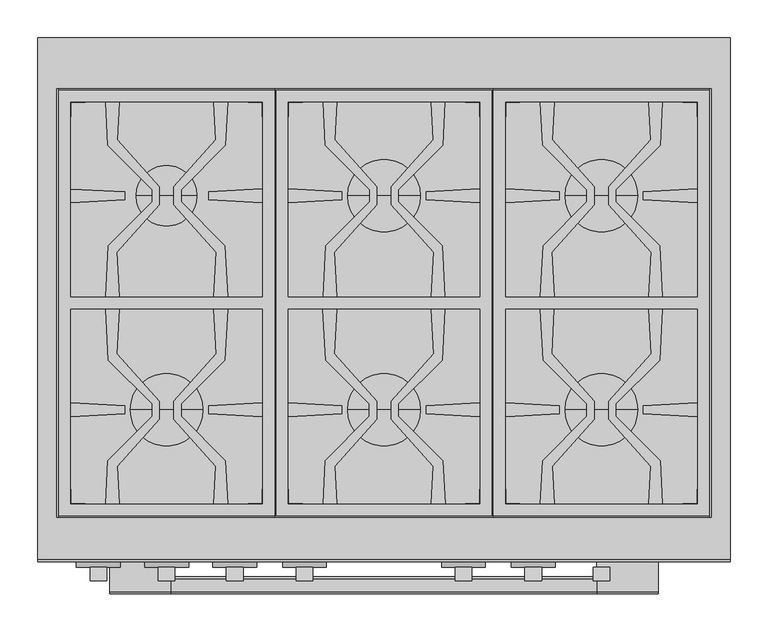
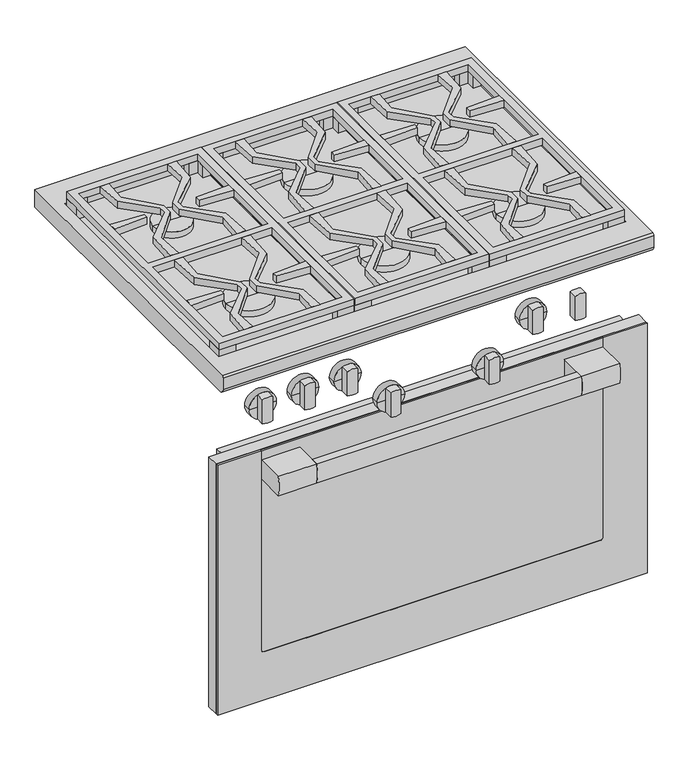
"""IFC4 building model written with IfcOpenShell, lengths in millimetres: proxy geometry, 11816580_BR_HR1134-3LP_EDST-CLS : 25113482_BR_11816580_HR1134-3LP_EDST-CLS."""

from ifc_helpers import new_model, si_unit, point, frame, frame_2d, origin, place, context, project, spatial, polyline, circle_curve, trimmed, segment, composite_curve, outline, extrude, source, transform, mapped, element, save
from ifc_brep_helpers import plane_surface, cylinder_surface, revolved_surface, advanced_brep


def specialty_equipment_c9cf899d(model_context):
    return source(origin(), model_context, "Body", "SolidModel", [
        extrude(outline(composite_curve([segment(polyline([(-714.0, 624.0), (-731.0, 624.0)]), True, "CONTINUOUS"), segment(trimmed(circle_curve(frame_2d((-655.4583333, 645.5)), 78.5416667), [point((-731.0, 624.0))], [point((-731.0, 667.0))], False, "CARTESIAN"), True, "CONTINUOUS"), segment(polyline([(-731.0, 667.0), (-714.0, 667.0)]), True, "CONTINUOUS"), segment(trimmed(circle_curve(frame_2d((-789.5416667, 645.5)), 78.5416667), [point((-714.0, 667.0))], [point((-714.0, 624.0))], False, "CARTESIAN"), True, "CONTINUOUS")], self_intersect=False)), frame((-281.0, 0.0, 0.0), z_axis=(1.0, 0.0, 0.0), x_axis=(0.0, 1.0, 0.0)), (0.0, 0.0, 1.0), 562.0),
        extrude(outline(composite_curve([segment(polyline([(-731.0, 667.0), (-668.7, 667.0), (-668.7, 624.0), (-731.0, 624.0)]), True, "CONTINUOUS"), segment(trimmed(circle_curve(frame_2d((-655.4583333, 645.5)), 78.5416667), [point((-731.0, 624.0))], [point((-731.0, 667.0))], False, "CARTESIAN"), True, "CONTINUOUS")], self_intersect=False)), frame((281.0, 0.0, 0.0), z_axis=(1.0, 0.0, 0.0), x_axis=(0.0, 1.0, 0.0)), (0.0, 0.0, 1.0), 81.0),
        extrude(outline(composite_curve([segment(polyline([(-668.7, 667.0), (-668.7, 624.0), (-731.0, 624.0)]), True, "CONTINUOUS"), segment(trimmed(circle_curve(frame_2d((-655.4583333, 645.5)), 78.5416667), [point((-731.0, 624.0))], [point((-731.0, 667.0))], False, "CARTESIAN"), True, "CONTINUOUS"), segment(polyline([(-731.0, 667.0), (-668.7, 667.0)]), True, "CONTINUOUS")], self_intersect=False)), frame((-362.0, 0.0, 0.0), z_axis=(1.0, 0.0, 0.0), x_axis=(0.0, 1.0, 0.0)), (0.0, 0.0, 1.0), 81.0),
        extrude(outline(polyline([(-456.0, -638.0), (456.0, -638.0), (456.0, -664.7), (-456.0, -664.7), (-456.0, -638.0)])), frame((0.0, 0.0, 127.0), z_axis=(0.0, 0.0, 1.0), x_axis=(1.0, 0.0, 0.0)), (0.0, 0.0, 1.0), 561.0),
        extrude(outline(polyline([(-455.0, -664.7), (455.0, -664.7), (455.0, -668.7), (-455.0, -668.7), (-455.0, -664.7)])), frame((0.0, 0.0, 128.0), z_axis=(0.0, 0.0, 1.0), x_axis=(1.0, 0.0, 0.0)), (0.0, 0.0, 1.0), 559.0),
        advanced_brep(
        [(363.0, -664.7, 688.0), (456.0, -664.7, 688.0), (456.0, -664.7, 127.0), (-456.0, -664.7, 127.0), (-456.0, -664.7, 688.0), (-363.0, -664.7, 688.0), (-363.0, -664.7, 687.0), (-455.0, -664.7, 687.0), (-455.0, -664.7, 128.0), (455.0, -664.7, 128.0), (455.0, -664.7, 687.0), (363.0, -664.7, 687.0), (-363.0, -670.0, 688.0), (-456.0, -670.0, 688.0), (-456.0, -670.0, 127.0), (456.0, -670.0, 127.0), (456.0, -670.0, 688.0), (363.0, -670.0, 688.0), (363.0, -670.0, 241.0), (357.0, -670.0, 235.0), (-357.0, -670.0, 235.0), (-363.0, -670.0, 241.0), (-363.0, -668.7, 241.0), (-363.0, -668.7, 687.0), (357.0, -668.7, 235.0), (-357.0, -668.7, 235.0), (363.0, -668.7, 687.0), (363.0, -668.7, 241.0), (455.0, -668.7, 687.0), (455.0, -668.7, 128.0), (-455.0, -668.7, 128.0), (-455.0, -668.7, 687.0)],
        [
            (0, 1),
            (1, 2),
            (2, 3),
            (3, 4),
            (4, 5),
            (5, 6),
            (6, 7),
            (7, 8),
            (8, 9),
            (9, 10),
            (10, 11),
            (11, 0),
            (12, 13),
            (13, 14),
            (14, 15),
            (15, 16),
            (16, 17),
            (17, 18),
            (18, 19, circle_curve(frame((357.0, -670.0, 241.0), z_axis=(0.0, 1.0, 0.0), x_axis=(-1.0, 0.0, 0.0)), 6.0)),
            (19, 20),
            (20, 21, circle_curve(frame((-357.0, -670.0, 241.0), z_axis=(0.0, 1.0, 0.0), x_axis=(-1.0, 0.0, 0.0)), 6.0)),
            (21, 12),
            (21, 22),
            (22, 23),
            (23, 6),
            (5, 12),
            (19, 24),
            (24, 25),
            (25, 20),
            (17, 0),
            (11, 26),
            (26, 27),
            (27, 18),
            (16, 1),
            (15, 2),
            (14, 3),
            (13, 4),
            (25, 22, circle_curve(frame((-357.0, -668.7, 241.0), z_axis=(0.0, 1.0, 0.0), x_axis=(-1.0, 0.0, 0.0)), 6.0)),
            (27, 24, circle_curve(frame((357.0, -668.7, 241.0), z_axis=(0.0, 1.0, 0.0), x_axis=(-1.0, 0.0, 0.0)), 6.0)),
            (28, 29),
            (29, 30),
            (30, 31),
            (31, 23),
            (26, 28),
            (28, 10),
            (9, 29),
            (8, 30),
            (7, 31),
        ],
        [
            plane_surface(frame((-363.0, -664.7, 241.0), z_axis=(0.0, 1.0, 0.0), x_axis=(0.0, 0.0, -1.0))),
            plane_surface(frame((-363.0, -670.0, 241.0), z_axis=(0.0, -1.0, 0.0), x_axis=(0.0, 0.0, 1.0))),
            plane_surface(frame((-363.0, -664.7, 688.0), z_axis=(1.0, 0.0, 0.0), x_axis=(0.0, -1.0, 0.0))),
            plane_surface(frame((-357.0, -664.7, 235.0), z_axis=(0.0, 0.0, 1.0), x_axis=(0.0, -1.0, 0.0))),
            plane_surface(frame((363.0, -664.7, 241.0), z_axis=(-1.0, 0.0, 0.0), x_axis=(0.0, -1.0, 0.0))),
            plane_surface(frame((363.0, -664.7, 688.0), z_axis=(0.0, 0.0, 1.0), x_axis=(0.0, -1.0, 0.0))),
            plane_surface(frame((456.0, -664.7, 688.0), z_axis=(1.0, 0.0, 0.0), x_axis=(0.0, -1.0, 0.0))),
            plane_surface(frame((456.0, -664.7, 127.0), z_axis=(0.0, 0.0, -1.0), x_axis=(0.0, -1.0, 0.0))),
            plane_surface(frame((-456.0, -664.7, 127.0), z_axis=(-1.0, 0.0, 0.0), x_axis=(0.0, -1.0, 0.0))),
            plane_surface(frame((-456.0, -664.7, 688.0), z_axis=(0.0, 0.0, 1.0), x_axis=(0.0, -1.0, 0.0))),
            revolved_surface(polyline([(-363.0, -670.0, 241.0), (-363.0, -668.7, 241.0)]), (-357.0, -670.0, 241.0), (0.0, -1.0, 0.0)),
            revolved_surface(polyline([(351.0, -670.0, 241.0), (351.0, -668.7, 241.0)]), (357.0, -670.0, 241.0), (0.0, -1.0, 0.0)),
            plane_surface(frame((455.0, -668.7, 687.0), z_axis=(0.0, 1.0, 0.0), x_axis=(0.0, 0.0, 1.0))),
            plane_surface(frame((455.0, -664.7, 687.0), z_axis=(-1.0, 0.0, 0.0), x_axis=(0.0, -1.0, 0.0))),
            plane_surface(frame((455.0, -664.7, 128.0), z_axis=(0.0, 0.0, 1.0), x_axis=(0.0, -1.0, 0.0))),
            plane_surface(frame((-455.0, -664.7, 128.0), z_axis=(1.0, 0.0, 0.0), x_axis=(0.0, -1.0, 0.0))),
            plane_surface(frame((-455.0, -664.7, 687.0), z_axis=(0.0, 0.0, -1.0), x_axis=(0.0, -1.0, 0.0))),
        ],
        [
            (0, [[1, 2, 3, 4, 5, 6, 7, 8, 9, 10, 11, 12]]),
            (1, [[13, 14, 15, 16, 17, 18, 19, 20, 21, 22]]),
            (2, [[-22, 23, 24, 25, -6, 26]]),
            (3, [[-20, 27, 28, 29]]),
            (4, [[-18, 30, -12, 31, 32, 33]]),
            (5, [[-1, -30, -17, 34]]),
            (6, [[-2, -34, -16, 35]]),
            (7, [[-3, -35, -15, 36]]),
            (8, [[-4, -36, -14, 37]]),
            (9, [[-5, -37, -13, -26]]),
            (10, [[-21, -29, 38, -23]]),
            (11, [[-19, -33, 39, -27]]),
            (12, [[40, 41, 42, 43, -24, -38, -28, -39, -32, 44]]),
            (13, [[-40, 45, -10, 46]]),
            (14, [[-41, -46, -9, 47]]),
            (15, [[-42, -47, -8, 48]]),
            (16, [[-45, -44, -31, -11]]),
            (16, [[-48, -7, -25, -43]]),
        ],
    ),
        extrude(outline(polyline([(-427.0, -617.0), (427.0, -617.0), (427.0, -638.0), (-427.0, -638.0), (-427.0, -617.0)])), frame((0.0, 0.0, 133.0), z_axis=(0.0, 0.0, 1.0), x_axis=(1.0, 0.0, 0.0)), (0.0, 0.0, 1.0), 550.0),
        extrude(outline(polyline([(206.4177304, -358.0273828), (224.4174107, -358.0273828), (221.3474419, -416.9894265), (277.4590566, -479.568392), (277.4590566, -503.4471434), (221.8930533, -565.5024535), (224.5051055, -615.0212482), (206.5054252, -615.0212482), (209.4706458, -558.0710081), (267.8494553, -499.6921986), (267.8494553, -483.3657133), (209.9764383, -425.4926963), (206.4177304, -358.0273828)])), frame((0.0, 0.0, 914.0), z_axis=(0.0, 0.0, 1.0), x_axis=(1.0, 0.0, 0.0)), (0.0, 0.0, 1.0), 15.0),
        extrude(outline(polyline([(352.5666917, -416.9448139), (349.4588735, -358.0273828), (367.4534566, -358.0273828), (363.9434746, -425.4403498), (306.0712231, -483.3126013), (306.0712231, -499.6295194), (364.5438392, -558.1021355), (367.5462487, -615.0212482), (349.541471, -615.0212482), (352.1220648, -565.4581775), (296.4590702, -503.3795395), (296.4590702, -479.6049953), (352.5666917, -416.9448139)])), frame((0.0, 0.0, 914.0), z_axis=(0.0, 0.0, 1.0), x_axis=(1.0, 0.0, 0.0)), (0.0, 0.0, 1.0), 15.0),
        extrude(outline(polyline([(-80.5822696, -358.0273828), (-62.5825893, -358.0273828), (-65.6525581, -416.9894265), (-9.5409434, -479.568392), (-9.5409434, -503.4471434), (-65.1069467, -565.5024535), (-62.4948945, -615.0212482), (-80.4945748, -615.0212482), (-77.5293542, -558.0710081), (-19.1505447, -499.6921986), (-19.1505447, -483.3657133), (-77.0235617, -425.4926963), (-80.5822696, -358.0273828)])), frame((0.0, 0.0, 914.0), z_axis=(0.0, 0.0, 1.0), x_axis=(1.0, 0.0, 0.0)), (0.0, 0.0, 1.0), 15.0),
        extrude(outline(polyline([(65.5666917, -416.9448139), (62.4588735, -358.0273828), (80.4534566, -358.0273828), (76.9434746, -425.4403498), (19.0712231, -483.3126013), (19.0712231, -499.6295194), (77.5438392, -558.1021355), (80.5462487, -615.0212482), (62.541471, -615.0212482), (65.1220648, -565.4581775), (9.4590702, -503.3795395), (9.4590702, -479.6049953), (65.5666917, -416.9448139)])), frame((0.0, 0.0, 914.0), z_axis=(0.0, 0.0, 1.0), x_axis=(1.0, 0.0, 0.0)), (0.0, 0.0, 1.0), 15.0),
        extrude(outline(polyline([(-367.5822696, -358.0273828), (-349.5825893, -358.0273828), (-352.6525581, -416.9894265), (-296.5409434, -479.568392), (-296.5409434, -503.4471434), (-352.1069467, -565.5024535), (-349.4948945, -615.0212482), (-367.4945748, -615.0212482), (-364.5293542, -558.0710081), (-306.1505447, -499.6921986), (-306.1505447, -483.3657133), (-364.0235617, -425.4926963), (-367.5822696, -358.0273828)])), frame((0.0, 0.0, 914.0), z_axis=(0.0, 0.0, 1.0), x_axis=(1.0, 0.0, 0.0)), (0.0, 0.0, 1.0), 15.0),
        extrude(outline(polyline([(-224.5411265, -358.0273828), (-206.5465434, -358.0273828), (-210.0565254, -425.4403498), (-267.9287769, -483.3126013), (-267.9287769, -499.6295194), (-209.4561608, -558.1021355), (-206.4537513, -615.0212482), (-224.458529, -615.0212482), (-221.8779352, -565.4581775), (-277.5409298, -503.3795395), (-277.5409298, -479.6049953), (-221.4333083, -416.9448139), (-224.5411265, -358.0273828)])), frame((0.0, 0.0, 914.0), z_axis=(0.0, 0.0, 1.0), x_axis=(1.0, 0.0, 0.0)), (0.0, 0.0, 1.0), 15.0),
        extrude(outline(polyline([(206.4614138, -85.0), (224.4614138, -85.0), (221.8661974, -134.5196799), (277.5, -196.6082182), (277.5, -220.3917818), (221.3710782, -283.0328838), (224.4614138, -342.0), (206.4614138, -342.0), (209.9971843, -274.5334805), (267.8891082, -216.6415566), (267.8891082, -200.3584434), (209.4441217, -141.9134569), (206.4614138, -85.0)])), frame((0.0, 0.0, 914.0), z_axis=(0.0, 0.0, 1.0), x_axis=(1.0, 0.0, 0.0)), (0.0, 0.0, 1.0), 15.0),
        extrude(outline(polyline([(349.5, -85.0), (367.5, -85.0), (364.5172921, -141.9134569), (306.1108918, -200.3198573), (306.1108918, -216.6801428), (363.9642295, -274.5334805), (367.5, -342.0), (349.5, -342.0), (352.5903356, -283.0328839), (296.5, -220.4348449), (296.5, -196.5651551), (352.0952165, -134.5196799), (349.5, -85.0)])), frame((0.0, 0.0, 914.0), z_axis=(0.0, 0.0, 1.0), x_axis=(1.0, 0.0, 0.0)), (0.0, 0.0, 1.0), 15.0),
        extrude(outline(polyline([(-367.5385862, -85.0), (-349.5385862, -85.0), (-352.1338026, -134.5196799), (-296.5, -196.6082182), (-296.5, -220.3917818), (-352.6289218, -283.0328838), (-349.5385862, -342.0), (-367.5385862, -342.0), (-364.0028157, -274.5334805), (-306.1108918, -216.6415566), (-306.1108918, -200.3584434), (-364.5558783, -141.9134569), (-367.5385862, -85.0)])), frame((0.0, 0.0, 914.0), z_axis=(0.0, 0.0, 1.0), x_axis=(1.0, 0.0, 0.0)), (0.0, 0.0, 1.0), 15.0),
        extrude(outline(polyline([(-224.5, -85.0), (-206.5, -85.0), (-209.4827079, -141.9134569), (-267.8891082, -200.3198573), (-267.8891082, -216.6801428), (-210.0357705, -274.5334805), (-206.5, -342.0), (-224.5, -342.0), (-221.4096644, -283.0328839), (-277.5, -220.4348449), (-277.5, -196.5651551), (-221.9047835, -134.5196799), (-224.5, -85.0)])), frame((0.0, 0.0, 914.0), z_axis=(0.0, 0.0, 1.0), x_axis=(1.0, 0.0, 0.0)), (0.0, 0.0, 1.0), 15.0),
        extrude(outline(polyline([(-62.5385862, -85.0), (-65.1338026, -134.5196799), (-9.5, -196.6082182), (-9.5, -220.3917818), (-65.6289218, -283.0328838), (-62.5385862, -342.0), (-80.5385862, -342.0), (-77.0028157, -274.5334805), (-19.1108918, -216.6415566), (-19.1108918, -200.3584434), (-77.5558783, -141.9134569), (-80.5385862, -85.0), (-62.5385862, -85.0)])), frame((0.0, 0.0, 914.0), z_axis=(0.0, 0.0, 1.0), x_axis=(1.0, 0.0, 0.0)), (0.0, 0.0, 1.0), 15.0),
        extrude(outline(polyline([(65.0952165, -134.5196799), (62.5, -85.0), (80.5, -85.0), (77.5172921, -141.9134569), (19.1108918, -200.3198573), (19.1108918, -216.6801428), (76.9642295, -274.5334805), (80.5, -342.0), (62.5, -342.0), (65.5903356, -283.0328839), (9.5, -220.4348449), (9.5, -196.5651551), (65.0952165, -134.5196799)])), frame((0.0, 0.0, 914.0), z_axis=(0.0, 0.0, 1.0), x_axis=(1.0, 0.0, 0.0)), (0.0, 0.0, 1.0), 15.0),
        extrude(outline(polyline([(429.5, -67.0), (429.5, -633.0), (144.5, -633.0), (144.5, -67.0), (429.5, -67.0)])), frame((0.0, 0.0, 870.0), z_axis=(0.0, 0.0, 1.0), x_axis=(1.0, 0.0, 0.0)), (0.0, 0.0, 1.0), 17.0),
        extrude(outline(polyline([(142.5, -69.0), (142.5, -631.0), (-142.5, -631.0), (-142.5, -69.0), (142.5, -69.0)])), frame((0.0, 0.0, 870.0), z_axis=(0.0, 0.0, 1.0), x_axis=(1.0, 0.0, 0.0)), (0.0, 0.0, 1.0), 17.0),
        extrude(outline(polyline([(-144.5, -67.0), (-144.5, -633.0), (-429.5, -633.0), (-429.5, -67.0), (-144.5, -67.0)])), frame((0.0, 0.0, 870.0), z_axis=(0.0, 0.0, 1.0), x_axis=(1.0, 0.0, 0.0)), (0.0, 0.0, 1.0), 17.0),
        extrude(outline(polyline([(-342.5, -213.7921261), (-413.5, -217.4578849), (-413.5, -199.5421151), (-342.5, -203.2078739), (-342.5, -213.7921261)])), frame((0.0, 0.0, 914.0), z_axis=(0.0, 0.0, 1.0), x_axis=(1.0, 0.0, 0.0)), (0.0, 0.0, 1.0), 15.0),
        extrude(outline(polyline([(-160.5, -199.5029948), (-160.5, -217.4970052), (-231.5, -213.7790477), (-231.5, -203.2209523), (-160.5, -199.5029948)])), frame((0.0, 0.0, 914.0), z_axis=(0.0, 0.0, 1.0), x_axis=(1.0, 0.0, 0.0)), (0.0, 0.0, 1.0), 15.0),
        extrude(outline(polyline([(-342.5, -496.2921261), (-413.5, -499.9578849), (-413.5, -482.0421151), (-342.5, -485.7078739), (-342.5, -496.2921261)])), frame((0.0, 0.0, 914.0), z_axis=(0.0, 0.0, 1.0), x_axis=(1.0, 0.0, 0.0)), (0.0, 0.0, 1.0), 15.0),
        extrude(outline(polyline([(-160.5, -482.0029948), (-160.5, -499.9970052), (-231.5, -496.2790477), (-231.5, -485.7209523), (-160.5, -482.0029948)])), frame((0.0, 0.0, 914.0), z_axis=(0.0, 0.0, 1.0), x_axis=(1.0, 0.0, 0.0)), (0.0, 0.0, 1.0), 15.0),
        extrude(outline(polyline([(-144.5, -631.0), (-179.5, -631.0), (-179.5, -615.0), (-160.5, -615.0), (-160.5, -596.0), (-144.5, -596.0), (-144.5, -631.0)])), frame((0.0, 0.0, 887.0), z_axis=(0.0, 0.0, 1.0), x_axis=(1.0, 0.0, 0.0)), (0.0, 0.0, 1.0), 27.0),
        extrude(outline(polyline([(-429.5, -631.0), (-429.5, -596.0), (-413.5, -596.0), (-413.5, -615.0), (-394.5, -615.0), (-394.5, -631.0), (-429.5, -631.0)])), frame((0.0, 0.0, 887.0), z_axis=(0.0, 0.0, 1.0), x_axis=(1.0, 0.0, 0.0)), (0.0, 0.0, 1.0), 27.0),
        extrude(outline(polyline([(-144.5, -69.0), (-144.5, -104.0), (-160.5, -104.0), (-160.5, -85.0), (-179.5, -85.0), (-179.5, -69.0), (-144.5, -69.0)])), frame((0.0, 0.0, 887.0), z_axis=(0.0, 0.0, 1.0), x_axis=(1.0, 0.0, 0.0)), (0.0, 0.0, 1.0), 27.0),
        extrude(outline(polyline([(-429.5, -69.0), (-394.5, -69.0), (-394.5, -85.0), (-413.5, -85.0), (-413.5, -104.0), (-429.5, -104.0), (-429.5, -69.0)])), frame((0.0, 0.0, 887.0), z_axis=(0.0, 0.0, 1.0), x_axis=(1.0, 0.0, 0.0)), (0.0, 0.0, 1.0), 27.0),
        extrude(outline(polyline([(-126.4662166, -499.9810574), (-126.4662166, -482.0189426), (-55.4662166, -485.7078739), (-55.4662166, -496.2921261), (-126.4662166, -499.9810574)])), frame((0.0, 0.0, 914.0), z_axis=(0.0, 0.0, 1.0), x_axis=(1.0, 0.0, 0.0)), (0.0, 0.0, 1.0), 15.0),
        extrude(outline(polyline([(126.5337834, -482.0262039), (126.5337834, -499.9737961), (55.5337834, -496.2790477), (55.5337834, -485.7209523), (126.5337834, -482.0262039)])), frame((0.0, 0.0, 914.0), z_axis=(0.0, 0.0, 1.0), x_axis=(1.0, 0.0, 0.0)), (0.0, 0.0, 1.0), 15.0),
        extrude(outline(polyline([(160.5, -499.9810574), (160.5, -482.0189426), (231.5, -485.7078739), (231.5, -496.2921261), (160.5, -499.9810574)])), frame((0.0, 0.0, 914.0), z_axis=(0.0, 0.0, 1.0), x_axis=(1.0, 0.0, 0.0)), (0.0, 0.0, 1.0), 15.0),
        extrude(outline(polyline([(413.5, -482.0262039), (413.5, -499.9737961), (342.5, -496.2790477), (342.5, -485.7209523), (413.5, -482.0262039)])), frame((0.0, 0.0, 914.0), z_axis=(0.0, 0.0, 1.0), x_axis=(1.0, 0.0, 0.0)), (0.0, 0.0, 1.0), 15.0),
        extrude(outline(polyline([(160.5, -217.4810574), (160.5, -199.5189426), (231.5, -203.2078739), (231.5, -213.7921261), (160.5, -217.4810574)])), frame((0.0, 0.0, 914.0), z_axis=(0.0, 0.0, 1.0), x_axis=(1.0, 0.0, 0.0)), (0.0, 0.0, 1.0), 15.0),
        extrude(outline(polyline([(413.5, -199.5262039), (413.5, -217.4737961), (342.5, -213.7790477), (342.5, -203.2209523), (413.5, -199.5262039)])), frame((0.0, 0.0, 914.0), z_axis=(0.0, 0.0, 1.0), x_axis=(1.0, 0.0, 0.0)), (0.0, 0.0, 1.0), 15.0),
        extrude(outline(polyline([(-126.4662166, -217.4810574), (-126.4662166, -199.5189426), (-55.4662166, -203.2078739), (-55.4662166, -213.7921261), (-126.4662166, -217.4810574)])), frame((0.0, 0.0, 914.0), z_axis=(0.0, 0.0, 1.0), x_axis=(1.0, 0.0, 0.0)), (0.0, 0.0, 1.0), 15.0),
        extrude(outline(polyline([(126.5337834, -199.5262039), (126.5337834, -217.4737961), (55.5337834, -213.7790477), (55.5337834, -203.2209523), (126.5337834, -199.5262039)])), frame((0.0, 0.0, 914.0), z_axis=(0.0, 0.0, 1.0), x_axis=(1.0, 0.0, 0.0)), (0.0, 0.0, 1.0), 15.0),
        advanced_brep(
        [(239.0, -208.5, 887.0), (335.0, -208.5, 887.0), (335.0, -208.5, 901.0), (239.0, -208.5, 901.0), (287.0, -208.5, 887.0), (287.0, -208.5, 901.0)],
        [
            (0, 1, circle_curve(frame((287.0, -208.5, 887.0), z_axis=(0.0, 0.0, 1.0), x_axis=(1.0, 0.0, 0.0)), 48.0)),
            (1, 2),
            (2, 3, circle_curve(frame((287.0, -208.5, 901.0), z_axis=(0.0, 0.0, -1.0), x_axis=(1.0, 0.0, 0.0)), 48.0)),
            (3, 0),
            (1, 0, circle_curve(frame((287.0, -208.5, 887.0), z_axis=(0.0, 0.0, 1.0), x_axis=(1.0, 0.0, 0.0)), 48.0)),
            (3, 2, circle_curve(frame((287.0, -208.5, 901.0), z_axis=(0.0, 0.0, -1.0), x_axis=(1.0, 0.0, 0.0)), 48.0)),
            (4, 1),
            (0, 4),
            (2, 5),
            (5, 3),
        ],
        [
            cylinder_surface(frame((287.0, -208.5, 2424.4), z_axis=(0.0, 0.0, -1.0), x_axis=(1.0, 0.0, 0.0)), 48.0),
            plane_surface(frame((287.0, -208.5, 887.0), z_axis=(0.0, 0.0, -1.0), x_axis=(1.0, 0.0, 0.0))),
            plane_surface(frame((287.0, -208.5, 901.0), z_axis=(0.0, 0.0, 1.0), x_axis=(1.0, 0.0, 0.0))),
        ],
        [
            (0, [[1, 2, 3, 4]]),
            (0, [[5, -4, 6, -2]]),
            (1, [[7, -1, 8]]),
            (1, [[-8, -5, -7]]),
            (2, [[-3, 9, 10]]),
            (2, [[-6, -10, -9]]),
        ],
    ),
        extrude(outline(polyline([(-144.5, -69.0), (-144.5, -631.0), (-429.5, -631.0), (-429.5, -69.0), (-144.5, -69.0)]), holes=[polyline([(-160.5, -85.0), (-413.5, -85.0), (-413.5, -342.0), (-160.5, -342.0), (-160.5, -85.0)]), polyline([(-413.5, -358.0), (-413.5, -615.0), (-160.5, -615.0), (-160.5, -358.0), (-413.5, -358.0)])]), frame((0.0, 0.0, 914.0), z_axis=(0.0, 0.0, 1.0), x_axis=(1.0, 0.0, 0.0)), (0.0, 0.0, 1.0), 15.0),
        extrude(outline(polyline([(142.5, -69.0), (142.5, -631.0), (-142.5, -631.0), (-142.5, -69.0), (142.5, -69.0)]), holes=[polyline([(126.5337834, -85.0), (-126.4662166, -85.0), (-126.4662166, -342.0), (126.5337834, -342.0), (126.5337834, -85.0)]), polyline([(-126.4662166, -358.0), (-126.4662166, -615.0), (126.5337834, -615.0), (126.5337834, -358.0), (-126.4662166, -358.0)])]), frame((0.0, 0.0, 914.0), z_axis=(0.0, 0.0, 1.0), x_axis=(1.0, 0.0, 0.0)), (0.0, 0.0, 1.0), 15.0),
        extrude(outline(polyline([(429.5, -69.0), (429.5, -631.0), (144.5, -631.0), (144.5, -69.0), (429.5, -69.0)]), holes=[polyline([(413.5, -85.0), (160.5, -85.0), (160.5, -342.0), (413.5, -342.0), (413.5, -85.0)]), polyline([(160.5, -358.0), (160.5, -615.0), (413.5, -615.0), (413.5, -358.0), (160.5, -358.0)])]), frame((0.0, 0.0, 914.0), z_axis=(0.0, 0.0, 1.0), x_axis=(1.0, 0.0, 0.0)), (0.0, 0.0, 1.0), 15.0),
        advanced_brep(
        [(239.0, -491.0, 887.0), (335.0, -491.0, 887.0), (335.0, -491.0, 901.0), (239.0, -491.0, 901.0), (287.0, -491.0, 887.0), (287.0, -491.0, 901.0)],
        [
            (0, 1, circle_curve(frame((287.0, -491.0, 887.0), z_axis=(0.0, 0.0, 1.0), x_axis=(1.0, 0.0, 0.0)), 48.0)),
            (1, 2),
            (2, 3, circle_curve(frame((287.0, -491.0, 901.0), z_axis=(0.0, 0.0, -1.0), x_axis=(1.0, 0.0, 0.0)), 48.0)),
            (3, 0),
            (1, 0, circle_curve(frame((287.0, -491.0, 887.0), z_axis=(0.0, 0.0, 1.0), x_axis=(1.0, 0.0, 0.0)), 48.0)),
            (3, 2, circle_curve(frame((287.0, -491.0, 901.0), z_axis=(0.0, 0.0, -1.0), x_axis=(1.0, 0.0, 0.0)), 48.0)),
            (4, 1),
            (0, 4),
            (2, 5),
            (5, 3),
        ],
        [
            cylinder_surface(frame((287.0, -491.0, 2424.4), z_axis=(0.0, 0.0, -1.0), x_axis=(1.0, 0.0, 0.0)), 48.0),
            plane_surface(frame((287.0, -491.0, 887.0), z_axis=(0.0, 0.0, -1.0), x_axis=(1.0, 0.0, 0.0))),
            plane_surface(frame((287.0, -491.0, 901.0), z_axis=(0.0, 0.0, 1.0), x_axis=(1.0, 0.0, 0.0))),
        ],
        [
            (0, [[1, 2, 3, 4]]),
            (0, [[5, -4, 6, -2]]),
            (1, [[7, -1, 8]]),
            (1, [[-8, -5, -7]]),
            (2, [[-3, 9, 10]]),
            (2, [[-6, -10, -9]]),
        ],
    ),
        extrude(outline(polyline([(429.5, -631.0), (394.5, -631.0), (394.5, -615.0), (413.5, -615.0), (413.5, -596.0), (429.5, -596.0), (429.5, -631.0)])), frame((0.0, 0.0, 887.0), z_axis=(0.0, 0.0, 1.0), x_axis=(1.0, 0.0, 0.0)), (0.0, 0.0, 1.0), 27.0),
        extrude(outline(polyline([(144.5, -631.0), (144.5, -596.0), (160.5125078, -596.0), (160.5125078, -615.0), (179.5, -615.0), (179.5, -631.0), (144.5, -631.0)])), frame((0.0, 0.0, 887.0), z_axis=(0.0, 0.0, 1.0), x_axis=(1.0, 0.0, 0.0)), (0.0, 0.0, 1.0), 27.0),
        extrude(outline(polyline([(429.5, -69.0), (429.5, -104.0), (413.4874922, -104.0), (413.4874922, -85.0), (394.5, -85.0), (394.5, -69.0), (429.5, -69.0)])), frame((0.0, 0.0, 887.0), z_axis=(0.0, 0.0, 1.0), x_axis=(1.0, 0.0, 0.0)), (0.0, 0.0, 1.0), 27.0),
        extrude(outline(polyline([(144.5, -69.0), (179.5, -69.0), (179.5, -85.0), (160.5125078, -85.0), (160.5125078, -104.0), (144.5, -104.0), (144.5, -69.0)])), frame((0.0, 0.0, 887.0), z_axis=(0.0, 0.0, 1.0), x_axis=(1.0, 0.0, 0.0)), (0.0, 0.0, 1.0), 27.0),
        extrude(outline(polyline([(142.5, -631.0), (107.5, -631.0), (107.5, -615.0), (126.5337834, -615.0), (126.5337834, -596.0), (142.5, -596.0), (142.5, -631.0)])), frame((0.0, 0.0, 887.0), z_axis=(0.0, 0.0, 1.0), x_axis=(1.0, 0.0, 0.0)), (0.0, 0.0, 1.0), 27.0),
        extrude(outline(polyline([(-142.5, -631.0), (-142.5, -596.0), (-126.4662166, -596.0), (-126.4662166, -615.0), (-107.5, -615.0), (-107.5, -631.0), (-142.5, -631.0)])), frame((0.0, 0.0, 887.0), z_axis=(0.0, 0.0, 1.0), x_axis=(1.0, 0.0, 0.0)), (0.0, 0.0, 1.0), 27.0),
        extrude(outline(polyline([(142.5, -69.0), (142.5, -104.0), (126.5337834, -104.0), (126.5337834, -85.0), (107.5, -85.0), (107.5, -69.0), (142.5, -69.0)])), frame((0.0, 0.0, 887.0), z_axis=(0.0, 0.0, 1.0), x_axis=(1.0, 0.0, 0.0)), (0.0, 0.0, 1.0), 27.0),
        extrude(outline(polyline([(-142.5, -69.0), (-107.5, -69.0), (-107.5, -85.0), (-126.4662166, -85.0), (-126.4662166, -104.0), (-142.5, -104.0), (-142.5, -69.0)])), frame((0.0, 0.0, 887.0), z_axis=(0.0, 0.0, 1.0), x_axis=(1.0, 0.0, 0.0)), (0.0, 0.0, 1.0), 27.0),
        advanced_brep(
        [(-48.0, -208.5, 887.0), (48.0, -208.5, 887.0), (48.0, -208.5, 901.0), (-48.0, -208.5, 901.0), (0.0, -208.5, 887.0), (0.0, -208.5, 901.0)],
        [
            (0, 1, circle_curve(frame((0.0, -208.5, 887.0), z_axis=(0.0, 0.0, 1.0), x_axis=(1.0, 0.0, 0.0)), 48.0)),
            (1, 2),
            (2, 3, circle_curve(frame((0.0, -208.5, 901.0), z_axis=(0.0, 0.0, -1.0), x_axis=(1.0, 0.0, 0.0)), 48.0)),
            (3, 0),
            (1, 0, circle_curve(frame((0.0, -208.5, 887.0), z_axis=(0.0, 0.0, 1.0), x_axis=(1.0, 0.0, 0.0)), 48.0)),
            (3, 2, circle_curve(frame((0.0, -208.5, 901.0), z_axis=(0.0, 0.0, -1.0), x_axis=(1.0, 0.0, 0.0)), 48.0)),
            (4, 1),
            (0, 4),
            (2, 5),
            (5, 3),
        ],
        [
            cylinder_surface(frame((0.0, -208.5, 2338.4), z_axis=(0.0, 0.0, -1.0), x_axis=(1.0, 0.0, 0.0)), 48.0),
            plane_surface(frame((0.0, -208.5, 887.0), z_axis=(0.0, 0.0, -1.0), x_axis=(1.0, 0.0, 0.0))),
            plane_surface(frame((0.0, -208.5, 901.0), z_axis=(0.0, 0.0, 1.0), x_axis=(1.0, 0.0, 0.0))),
        ],
        [
            (0, [[1, 2, 3, 4]]),
            (0, [[5, -4, 6, -2]]),
            (1, [[7, -1, 8]]),
            (1, [[-8, -5, -7]]),
            (2, [[-3, 9, 10]]),
            (2, [[-6, -10, -9]]),
        ],
    ),
        advanced_brep(
        [(-287.0, -208.5, 887.0), (-247.0, -208.5, 887.0), (-327.0, -208.5, 887.0), (-327.0, -208.5, 901.0), (-247.0, -208.5, 901.0), (-287.0, -208.5, 901.0)],
        [
            (0, 1),
            (1, 2, circle_curve(frame((-287.0, -208.5, 887.0), z_axis=(0.0, 0.0, -1.0), x_axis=(1.0, 0.0, 0.0)), 40.0)),
            (2, 0),
            (2, 1, circle_curve(frame((-287.0, -208.5, 887.0), z_axis=(0.0, 0.0, -1.0), x_axis=(1.0, 0.0, 0.0)), 40.0)),
            (3, 4, circle_curve(frame((-287.0, -208.5, 901.0), z_axis=(0.0, 0.0, 1.0), x_axis=(1.0, 0.0, 0.0)), 40.0)),
            (4, 5),
            (5, 3),
            (4, 3, circle_curve(frame((-287.0, -208.5, 901.0), z_axis=(0.0, 0.0, 1.0), x_axis=(1.0, 0.0, 0.0)), 40.0)),
            (1, 4),
            (3, 2),
        ],
        [
            plane_surface(frame((-287.0, -208.5, 887.0), z_axis=(0.0, 0.0, -1.0), x_axis=(1.0, 0.0, 0.0))),
            plane_surface(frame((-287.0, -208.5, 901.0), z_axis=(0.0, 0.0, 1.0), x_axis=(1.0, 0.0, 0.0))),
            cylinder_surface(frame((-287.0, -208.5, 2424.4), z_axis=(0.0, 0.0, -1.0), x_axis=(1.0, 0.0, 0.0)), 40.0),
        ],
        [
            (0, [[1, 2, 3]]),
            (0, [[-3, 4, -1]]),
            (1, [[5, 6, 7]]),
            (1, [[8, -7, -6]]),
            (2, [[-2, 9, -5, 10]]),
            (2, [[-4, -10, -8, -9]]),
        ],
    ),
        advanced_brep(
        [(-335.0, -491.0, 887.0), (-239.0, -491.0, 887.0), (-239.0, -491.0, 901.0), (-335.0, -491.0, 901.0), (-287.0, -491.0, 887.0), (-287.0, -491.0, 901.0)],
        [
            (0, 1, circle_curve(frame((-287.0, -491.0, 887.0), z_axis=(0.0, 0.0, 1.0), x_axis=(1.0, 0.0, 0.0)), 48.0)),
            (1, 2),
            (2, 3, circle_curve(frame((-287.0, -491.0, 901.0), z_axis=(0.0, 0.0, -1.0), x_axis=(1.0, 0.0, 0.0)), 48.0)),
            (3, 0),
            (1, 0, circle_curve(frame((-287.0, -491.0, 887.0), z_axis=(0.0, 0.0, 1.0), x_axis=(1.0, 0.0, 0.0)), 48.0)),
            (3, 2, circle_curve(frame((-287.0, -491.0, 901.0), z_axis=(0.0, 0.0, -1.0), x_axis=(1.0, 0.0, 0.0)), 48.0)),
            (4, 1),
            (0, 4),
            (2, 5),
            (5, 3),
        ],
        [
            cylinder_surface(frame((-287.0, -491.0, 2424.4), z_axis=(0.0, 0.0, -1.0), x_axis=(1.0, 0.0, 0.0)), 48.0),
            plane_surface(frame((-287.0, -491.0, 887.0), z_axis=(0.0, 0.0, -1.0), x_axis=(1.0, 0.0, 0.0))),
            plane_surface(frame((-287.0, -491.0, 901.0), z_axis=(0.0, 0.0, 1.0), x_axis=(1.0, 0.0, 0.0))),
        ],
        [
            (0, [[1, 2, 3, 4]]),
            (0, [[5, -4, 6, -2]]),
            (1, [[7, -1, 8]]),
            (1, [[-8, -5, -7]]),
            (2, [[-3, 9, 10]]),
            (2, [[-6, -10, -9]]),
        ],
    ),
        advanced_brep(
        [(-48.0, -491.0, 887.0), (48.0, -491.0, 887.0), (48.0, -491.0, 901.0), (-48.0, -491.0, 901.0), (0.0, -491.0, 887.0), (0.0, -491.0, 901.0)],
        [
            (0, 1, circle_curve(frame((0.0, -491.0, 887.0), z_axis=(0.0, 0.0, 1.0), x_axis=(1.0, 0.0, 0.0)), 48.0)),
            (1, 2),
            (2, 3, circle_curve(frame((0.0, -491.0, 901.0), z_axis=(0.0, 0.0, -1.0), x_axis=(1.0, 0.0, 0.0)), 48.0)),
            (3, 0),
            (1, 0, circle_curve(frame((0.0, -491.0, 887.0), z_axis=(0.0, 0.0, 1.0), x_axis=(1.0, 0.0, 0.0)), 48.0)),
            (3, 2, circle_curve(frame((0.0, -491.0, 901.0), z_axis=(0.0, 0.0, -1.0), x_axis=(1.0, 0.0, 0.0)), 48.0)),
            (4, 1),
            (0, 4),
            (2, 5),
            (5, 3),
        ],
        [
            cylinder_surface(frame((0.0, -491.0, 2424.4), z_axis=(0.0, 0.0, -1.0), x_axis=(1.0, 0.0, 0.0)), 48.0),
            plane_surface(frame((0.0, -491.0, 887.0), z_axis=(0.0, 0.0, -1.0), x_axis=(1.0, 0.0, 0.0))),
            plane_surface(frame((0.0, -491.0, 901.0), z_axis=(0.0, 0.0, 1.0), x_axis=(1.0, 0.0, 0.0))),
        ],
        [
            (0, [[1, 2, 3, 4]]),
            (0, [[5, -4, 6, -2]]),
            (1, [[7, -1, 8]]),
            (1, [[-8, -5, -7]]),
            (2, [[-3, 9, 10]]),
            (2, [[-6, -10, -9]]),
        ],
    ),
        advanced_brep(
        [(457.0, 0.0, 902.0), (457.0, -688.3499547, 902.0), (457.0, -692.0, 898.3499547), (457.0, -692.0, 872.0), (457.0, -682.0, 862.0), (457.0, 0.0, 862.0), (-457.0, 0.0, 902.0), (-457.0, 0.0, 862.0), (-457.0, -682.0, 862.0), (-457.0, -692.0, 872.0), (-457.0, -692.0, 898.3499547), (-457.0, -688.3499547, 902.0), (-432.0, -67.0, 902.0), (432.0, -67.0, 902.0), (432.0, -633.0, 902.0), (-432.0, -633.0, 902.0), (432.0, -67.0, 870.0), (-432.0, -67.0, 870.0), (-432.0, -633.0, 870.0), (432.0, -633.0, 870.0)],
        [
            (0, 1),
            (1, 2, circle_curve(frame((457.0, -688.0, 898.0), z_axis=(1.0, 0.0, 0.0), x_axis=(0.0, 0.0, 1.0)), 4.0152794)),
            (2, 3),
            (3, 4, circle_curve(frame((457.0, -682.0, 872.0), z_axis=(1.0, 0.0, 0.0), x_axis=(0.0, 0.0, 1.0)), 10.0)),
            (4, 5),
            (5, 0),
            (6, 7),
            (7, 8),
            (8, 9, circle_curve(frame((-457.0, -682.0, 872.0), z_axis=(-1.0, 0.0, 0.0), x_axis=(0.0, 0.0, 1.0)), 10.0)),
            (9, 10),
            (10, 11, circle_curve(frame((-457.0, -688.0, 898.0), z_axis=(-1.0, 0.0, 0.0), x_axis=(0.0, 0.0, 1.0)), 4.0152794)),
            (11, 6),
            (0, 6),
            (11, 1),
            (12, 13),
            (13, 14),
            (14, 15),
            (15, 12),
            (10, 2),
            (9, 3),
            (8, 4),
            (7, 5),
            (16, 17),
            (17, 18),
            (18, 19),
            (19, 16),
            (16, 13),
            (12, 17),
            (15, 18),
            (14, 19),
        ],
        [
            plane_surface(frame((457.0, -688.3499547, 902.0), z_axis=(1.0, 0.0, 0.0), x_axis=(0.0, -1.0, 0.0))),
            plane_surface(frame((-457.0, -688.3499547, 902.0), z_axis=(-1.0, 0.0, 0.0), x_axis=(0.0, 1.0, 0.0))),
            plane_surface(frame((457.0, 0.0, 902.0), z_axis=(0.0, 0.0, 1.0), x_axis=(-1.0, 0.0, 0.0))),
            cylinder_surface(frame((-457.0, -688.0, 898.0), z_axis=(1.0, 0.0, 0.0), x_axis=(0.0, 0.0, 1.0)), 4.0152794),
            plane_surface(frame((457.0, -692.0, 898.3499547), z_axis=(0.0, -1.0, 0.0), x_axis=(-1.0, 0.0, 0.0))),
            cylinder_surface(frame((-457.0, -682.0, 872.0), z_axis=(1.0, 0.0, 0.0), x_axis=(0.0, 0.0, 1.0)), 10.0),
            plane_surface(frame((457.0, -682.0, 862.0), z_axis=(0.0, 0.0, -1.0), x_axis=(-1.0, 0.0, 0.0))),
            plane_surface(frame((457.0, 0.0, 862.0), z_axis=(0.0, 1.0, 0.0), x_axis=(-1.0, 0.0, 0.0))),
            plane_surface(frame((-432.0, -67.0, 870.0), z_axis=(0.0, 0.0, 1.0), x_axis=(1.0, 0.0, 0.0))),
            plane_surface(frame((432.0, -67.0, 902.0), z_axis=(0.0, -1.0, 0.0), x_axis=(0.0, 0.0, -1.0))),
            plane_surface(frame((-432.0, -67.0, 902.0), z_axis=(1.0, 0.0, 0.0), x_axis=(0.0, 0.0, -1.0))),
            plane_surface(frame((-432.0, -633.0, 902.0), z_axis=(0.0, 1.0, 0.0), x_axis=(0.0, 0.0, -1.0))),
            plane_surface(frame((432.0, -633.0, 902.0), z_axis=(-1.0, 0.0, 0.0), x_axis=(0.0, 0.0, -1.0))),
        ],
        [
            (0, [[1, 2, 3, 4, 5, 6]]),
            (1, [[7, 8, 9, 10, 11, 12]]),
            (2, [[-1, 13, -12, 14], [15, 16, 17, 18]]),
            (3, [[-2, -14, -11, 19]]),
            (4, [[-3, -19, -10, 20]]),
            (5, [[-4, -20, -9, 21]]),
            (6, [[-5, -21, -8, 22]]),
            (7, [[-6, -22, -7, -13]]),
            (8, [[23, 24, 25, 26]]),
            (9, [[-23, 27, -15, 28]]),
            (10, [[-24, -28, -18, 29]]),
            (11, [[-25, -29, -17, 30]]),
            (12, [[-26, -30, -16, -27]]),
        ],
    ),
        extrude(outline(composite_curve([segment(polyline([(759.8328157, 94.0), (706.1671843, 94.0)]), True, "CONTINUOUS"), segment(trimmed(circle_curve(frame_2d((733.0, 105.0)), 29.0), [point((706.1671843, 94.0))], [point((706.1671843, 116.0))], False, "CARTESIAN"), True, "CONTINUOUS"), segment(polyline([(706.1671843, 116.0), (759.8328157, 116.0)]), True, "CONTINUOUS"), segment(trimmed(circle_curve(frame_2d((733.0, 105.0)), 29.0), [point((759.8328157, 116.0))], [point((759.8328157, 94.0))], False, "CARTESIAN"), True, "CONTINUOUS")], self_intersect=False)), frame((0.0, -717.0, 0.0), z_axis=(0.0, 1.0, 0.0), x_axis=(0.0, 0.0, 1.0)), (0.0, 0.0, 1.0), 18.0),
        extrude(outline(composite_curve([segment(polyline([(759.8328157, -116.0), (706.1671843, -116.0)]), True, "CONTINUOUS"), segment(trimmed(circle_curve(frame_2d((733.0, -105.0)), 29.0), [point((706.1671843, -116.0))], [point((706.1671843, -94.0))], False, "CARTESIAN"), True, "CONTINUOUS"), segment(polyline([(706.1671843, -94.0), (759.8328157, -94.0)]), True, "CONTINUOUS"), segment(trimmed(circle_curve(frame_2d((733.0, -105.0)), 29.0), [point((759.8328157, -94.0))], [point((759.8328157, -116.0))], False, "CARTESIAN"), True, "CONTINUOUS")], self_intersect=False)), frame((0.0, -717.0, 0.0), z_axis=(0.0, 1.0, 0.0), x_axis=(0.0, 0.0, 1.0)), (0.0, 0.0, 1.0), 18.0),
        advanced_brep(
        [(-105.0, -683.0, 733.0), (-76.0, -683.0, 733.0), (-134.0, -683.0, 733.0), (-134.0, -699.0, 733.0), (-76.0, -699.0, 733.0), (-105.0, -699.0, 733.0)],
        [
            (0, 1),
            (1, 2, circle_curve(frame((-105.0, -683.0, 733.0), z_axis=(0.0, 1.0, 0.0), x_axis=(1.0, 0.0, 0.0)), 29.0)),
            (2, 0),
            (2, 1, circle_curve(frame((-105.0, -683.0, 733.0), z_axis=(0.0, 1.0, 0.0), x_axis=(1.0, 0.0, 0.0)), 29.0)),
            (3, 4, circle_curve(frame((-105.0, -699.0, 733.0), z_axis=(0.0, -1.0, 0.0), x_axis=(1.0, 0.0, 0.0)), 29.0)),
            (4, 5),
            (5, 3),
            (4, 3, circle_curve(frame((-105.0, -699.0, 733.0), z_axis=(0.0, -1.0, 0.0), x_axis=(1.0, 0.0, 0.0)), 29.0)),
            (1, 4),
            (3, 2),
        ],
        [
            plane_surface(frame((-105.0, -683.0, 733.0), z_axis=(0.0, 1.0, 0.0), x_axis=(1.0, 0.0, 0.0))),
            plane_surface(frame((-105.0, -699.0, 733.0), z_axis=(0.0, -1.0, 0.0), x_axis=(1.0, 0.0, 0.0))),
            cylinder_surface(frame((-105.0, 751.3738435, 733.0), z_axis=(0.0, 1.0, 0.0), x_axis=(1.0, 0.0, 0.0)), 29.0),
        ],
        [
            (0, [[1, 2, 3]]),
            (0, [[-3, 4, -1]]),
            (1, [[5, 6, 7]]),
            (1, [[8, -7, -6]]),
            (2, [[-2, 9, -5, 10]]),
            (2, [[-4, -10, -8, -9]]),
        ],
    ),
        advanced_brep(
        [(105.0, -683.0, 733.0), (134.0, -683.0, 733.0), (76.0, -683.0, 733.0), (76.0, -699.0, 733.0), (134.0, -699.0, 733.0), (105.0, -699.0, 733.0)],
        [
            (0, 1),
            (1, 2, circle_curve(frame((105.0, -683.0, 733.0), z_axis=(0.0, 1.0, 0.0), x_axis=(1.0, 0.0, 0.0)), 29.0)),
            (2, 0),
            (2, 1, circle_curve(frame((105.0, -683.0, 733.0), z_axis=(0.0, 1.0, 0.0), x_axis=(1.0, 0.0, 0.0)), 29.0)),
            (3, 4, circle_curve(frame((105.0, -699.0, 733.0), z_axis=(0.0, -1.0, 0.0), x_axis=(1.0, 0.0, 0.0)), 29.0)),
            (4, 5),
            (5, 3),
            (4, 3, circle_curve(frame((105.0, -699.0, 733.0), z_axis=(0.0, -1.0, 0.0), x_axis=(1.0, 0.0, 0.0)), 29.0)),
            (1, 4),
            (3, 2),
        ],
        [
            plane_surface(frame((105.0, -683.0, 733.0), z_axis=(0.0, 1.0, 0.0), x_axis=(1.0, 0.0, 0.0))),
            plane_surface(frame((105.0, -699.0, 733.0), z_axis=(0.0, -1.0, 0.0), x_axis=(1.0, 0.0, 0.0))),
            cylinder_surface(frame((105.0, 751.3738435, 733.0), z_axis=(0.0, 1.0, 0.0), x_axis=(1.0, 0.0, 0.0)), 29.0),
        ],
        [
            (0, [[1, 2, 3]]),
            (0, [[-3, 4, -1]]),
            (1, [[5, 6, 7]]),
            (1, [[8, -7, -6]]),
            (2, [[-2, 9, -5, 10]]),
            (2, [[-4, -10, -8, -9]]),
        ],
    ),
        extrude(outline(composite_curve([segment(polyline([(839.8328157, -388.0), (786.1671843, -388.0)]), True, "CONTINUOUS"), segment(trimmed(circle_curve(frame_2d((813.0, -377.0)), 29.0), [point((786.1671843, -388.0))], [point((786.1671843, -366.0))], False, "CARTESIAN"), True, "CONTINUOUS"), segment(polyline([(786.1671843, -366.0), (839.8328157, -366.0)]), True, "CONTINUOUS"), segment(trimmed(circle_curve(frame_2d((813.0, -377.0)), 29.0), [point((839.8328157, -366.0))], [point((839.8328157, -388.0))], False, "CARTESIAN"), True, "CONTINUOUS")], self_intersect=False)), frame((0.0, -717.0, 0.0), z_axis=(0.0, 1.0, 0.0), x_axis=(0.0, 0.0, 1.0)), (0.0, 0.0, 1.0), 18.0),
        extrude(outline(composite_curve([segment(polyline([(839.8328157, -298.0), (786.1671843, -298.0)]), True, "CONTINUOUS"), segment(trimmed(circle_curve(frame_2d((813.0, -287.0)), 29.0), [point((786.1671843, -298.0))], [point((786.1671843, -276.0))], False, "CARTESIAN"), True, "CONTINUOUS"), segment(polyline([(786.1671843, -276.0), (839.8328157, -276.0)]), True, "CONTINUOUS"), segment(trimmed(circle_curve(frame_2d((813.0, -287.0)), 29.0), [point((839.8328157, -276.0))], [point((839.8328157, -298.0))], False, "CARTESIAN"), True, "CONTINUOUS")], self_intersect=False)), frame((0.0, -717.0, 0.0), z_axis=(0.0, 1.0, 0.0), x_axis=(0.0, 0.0, 1.0)), (0.0, 0.0, 1.0), 18.0),
        extrude(outline(composite_curve([segment(polyline([(839.8328157, -208.0), (786.1671843, -208.0)]), True, "CONTINUOUS"), segment(trimmed(circle_curve(frame_2d((813.0, -197.0)), 29.0), [point((786.1671843, -208.0))], [point((786.1671843, -186.0))], False, "CARTESIAN"), True, "CONTINUOUS"), segment(polyline([(786.1671843, -186.0), (839.8328157, -186.0)]), True, "CONTINUOUS"), segment(trimmed(circle_curve(frame_2d((813.0, -197.0)), 29.0), [point((839.8328157, -186.0))], [point((839.8328157, -208.0))], False, "CARTESIAN"), True, "CONTINUOUS")], self_intersect=False)), frame((0.0, -717.0, 0.0), z_axis=(0.0, 1.0, 0.0), x_axis=(0.0, 0.0, 1.0)), (0.0, 0.0, 1.0), 18.0),
        extrude(outline(composite_curve([segment(polyline([(839.8328157, 186.0), (786.1671843, 186.0)]), True, "CONTINUOUS"), segment(trimmed(circle_curve(frame_2d((813.0, 197.0)), 29.0), [point((786.1671843, 186.0))], [point((786.1671843, 208.0))], False, "CARTESIAN"), True, "CONTINUOUS"), segment(polyline([(786.1671843, 208.0), (839.8328157, 208.0)]), True, "CONTINUOUS"), segment(trimmed(circle_curve(frame_2d((813.0, 197.0)), 29.0), [point((839.8328157, 208.0))], [point((839.8328157, 186.0))], False, "CARTESIAN"), True, "CONTINUOUS")], self_intersect=False)), frame((0.0, -717.0, 0.0), z_axis=(0.0, 1.0, 0.0), x_axis=(0.0, 0.0, 1.0)), (0.0, 0.0, 1.0), 18.0),
        extrude(outline(composite_curve([segment(trimmed(circle_curve(frame_2d((813.0, 287.0)), 29.0), [point((786.1671843, 276.0))], [point((786.1671843, 298.0))], False, "CARTESIAN"), True, "CONTINUOUS"), segment(polyline([(786.1671843, 298.0), (839.8328157, 298.0)]), True, "CONTINUOUS"), segment(trimmed(circle_curve(frame_2d((813.0, 287.0)), 29.0), [point((839.8328157, 298.0))], [point((839.8328157, 276.0))], False, "CARTESIAN"), True, "CONTINUOUS"), segment(polyline([(839.8328157, 276.0), (786.1671843, 276.0)]), True, "CONTINUOUS")], self_intersect=False)), frame((0.0, -717.0, 0.0), z_axis=(0.0, 1.0, 0.0), x_axis=(0.0, 0.0, 1.0)), (0.0, 0.0, 1.0), 18.0),
        advanced_brep(
        [(-377.0, -683.0, 813.0), (-348.0, -683.0, 813.0), (-406.0, -683.0, 813.0), (-406.0, -699.0, 813.0), (-348.0, -699.0, 813.0), (-377.0, -699.0, 813.0)],
        [
            (0, 1),
            (1, 2, circle_curve(frame((-377.0, -683.0, 813.0), z_axis=(0.0, 1.0, 0.0), x_axis=(1.0, 0.0, 0.0)), 29.0)),
            (2, 0),
            (2, 1, circle_curve(frame((-377.0, -683.0, 813.0), z_axis=(0.0, 1.0, 0.0), x_axis=(1.0, 0.0, 0.0)), 29.0)),
            (3, 4, circle_curve(frame((-377.0, -699.0, 813.0), z_axis=(0.0, -1.0, 0.0), x_axis=(1.0, 0.0, 0.0)), 29.0)),
            (4, 5),
            (5, 3),
            (4, 3, circle_curve(frame((-377.0, -699.0, 813.0), z_axis=(0.0, -1.0, 0.0), x_axis=(1.0, 0.0, 0.0)), 29.0)),
            (1, 4),
            (3, 2),
        ],
        [
            plane_surface(frame((-377.0, -683.0, 813.0), z_axis=(0.0, 1.0, 0.0), x_axis=(1.0, 0.0, 0.0))),
            plane_surface(frame((-377.0, -699.0, 813.0), z_axis=(0.0, -1.0, 0.0), x_axis=(1.0, 0.0, 0.0))),
            cylinder_surface(frame((-377.0, 751.3738435, 813.0), z_axis=(0.0, 1.0, 0.0), x_axis=(1.0, 0.0, 0.0)), 29.0),
        ],
        [
            (0, [[1, 2, 3]]),
            (0, [[-3, 4, -1]]),
            (1, [[5, 6, 7]]),
            (1, [[8, -7, -6]]),
            (2, [[-2, 9, -5, 10]]),
            (2, [[-4, -10, -8, -9]]),
        ],
    ),
        advanced_brep(
        [(-287.0, -683.0, 813.0), (-258.0, -683.0, 813.0), (-316.0, -683.0, 813.0), (-316.0, -699.0, 813.0), (-258.0, -699.0, 813.0), (-287.0, -699.0, 813.0)],
        [
            (0, 1),
            (1, 2, circle_curve(frame((-287.0, -683.0, 813.0), z_axis=(0.0, 1.0, 0.0), x_axis=(1.0, 0.0, 0.0)), 29.0)),
            (2, 0),
            (2, 1, circle_curve(frame((-287.0, -683.0, 813.0), z_axis=(0.0, 1.0, 0.0), x_axis=(1.0, 0.0, 0.0)), 29.0)),
            (3, 4, circle_curve(frame((-287.0, -699.0, 813.0), z_axis=(0.0, -1.0, 0.0), x_axis=(1.0, 0.0, 0.0)), 29.0)),
            (4, 5),
            (5, 3),
            (4, 3, circle_curve(frame((-287.0, -699.0, 813.0), z_axis=(0.0, -1.0, 0.0), x_axis=(1.0, 0.0, 0.0)), 29.0)),
            (1, 4),
            (3, 2),
        ],
        [
            plane_surface(frame((-287.0, -683.0, 813.0), z_axis=(0.0, 1.0, 0.0), x_axis=(1.0, 0.0, 0.0))),
            plane_surface(frame((-287.0, -699.0, 813.0), z_axis=(0.0, -1.0, 0.0), x_axis=(1.0, 0.0, 0.0))),
            cylinder_surface(frame((-287.0, 751.3738435, 813.0), z_axis=(0.0, 1.0, 0.0), x_axis=(1.0, 0.0, 0.0)), 29.0),
        ],
        [
            (0, [[1, 2, 3]]),
            (0, [[-3, 4, -1]]),
            (1, [[5, 6, 7]]),
            (1, [[8, -7, -6]]),
            (2, [[-2, 9, -5, 10]]),
            (2, [[-4, -10, -8, -9]]),
        ],
    ),
        advanced_brep(
        [(-197.0, -683.0, 813.0), (-168.0, -683.0, 813.0), (-226.0, -683.0, 813.0), (-226.0, -699.0, 813.0), (-168.0, -699.0, 813.0), (-197.0, -699.0, 813.0)],
        [
            (0, 1),
            (1, 2, circle_curve(frame((-197.0, -683.0, 813.0), z_axis=(0.0, 1.0, 0.0), x_axis=(1.0, 0.0, 0.0)), 29.0)),
            (2, 0),
            (2, 1, circle_curve(frame((-197.0, -683.0, 813.0), z_axis=(0.0, 1.0, 0.0), x_axis=(1.0, 0.0, 0.0)), 29.0)),
            (3, 4, circle_curve(frame((-197.0, -699.0, 813.0), z_axis=(0.0, -1.0, 0.0), x_axis=(1.0, 0.0, 0.0)), 29.0)),
            (4, 5),
            (5, 3),
            (4, 3, circle_curve(frame((-197.0, -699.0, 813.0), z_axis=(0.0, -1.0, 0.0), x_axis=(1.0, 0.0, 0.0)), 29.0)),
            (1, 4),
            (3, 2),
        ],
        [
            plane_surface(frame((-197.0, -683.0, 813.0), z_axis=(0.0, 1.0, 0.0), x_axis=(1.0, 0.0, 0.0))),
            plane_surface(frame((-197.0, -699.0, 813.0), z_axis=(0.0, -1.0, 0.0), x_axis=(1.0, 0.0, 0.0))),
            cylinder_surface(frame((-197.0, 751.3738435, 813.0), z_axis=(0.0, 1.0, 0.0), x_axis=(1.0, 0.0, 0.0)), 29.0),
        ],
        [
            (0, [[1, 2, 3]]),
            (0, [[-3, 4, -1]]),
            (1, [[5, 6, 7]]),
            (1, [[8, -7, -6]]),
            (2, [[-2, 9, -5, 10]]),
            (2, [[-4, -10, -8, -9]]),
        ],
    ),
        advanced_brep(
        [(197.0, -683.0, 813.0), (226.0, -683.0, 813.0), (168.0, -683.0, 813.0), (168.0, -699.0, 813.0), (226.0, -699.0, 813.0), (197.0, -699.0, 813.0)],
        [
            (0, 1),
            (1, 2, circle_curve(frame((197.0, -683.0, 813.0), z_axis=(0.0, 1.0, 0.0), x_axis=(1.0, 0.0, 0.0)), 29.0)),
            (2, 0),
            (2, 1, circle_curve(frame((197.0, -683.0, 813.0), z_axis=(0.0, 1.0, 0.0), x_axis=(1.0, 0.0, 0.0)), 29.0)),
            (3, 4, circle_curve(frame((197.0, -699.0, 813.0), z_axis=(0.0, -1.0, 0.0), x_axis=(1.0, 0.0, 0.0)), 29.0)),
            (4, 5),
            (5, 3),
            (4, 3, circle_curve(frame((197.0, -699.0, 813.0), z_axis=(0.0, -1.0, 0.0), x_axis=(1.0, 0.0, 0.0)), 29.0)),
            (1, 4),
            (3, 2),
        ],
        [
            plane_surface(frame((197.0, -683.0, 813.0), z_axis=(0.0, 1.0, 0.0), x_axis=(1.0, 0.0, 0.0))),
            plane_surface(frame((197.0, -699.0, 813.0), z_axis=(0.0, -1.0, 0.0), x_axis=(1.0, 0.0, 0.0))),
            cylinder_surface(frame((197.0, 751.3738435, 813.0), z_axis=(0.0, 1.0, 0.0), x_axis=(1.0, 0.0, 0.0)), 29.0),
        ],
        [
            (0, [[1, 2, 3]]),
            (0, [[-3, 4, -1]]),
            (1, [[5, 6, 7]]),
            (1, [[8, -7, -6]]),
            (2, [[-2, 9, -5, 10]]),
            (2, [[-4, -10, -8, -9]]),
        ],
    ),
    ])


if __name__ == "__main__":
    model = new_model("IFC4")
    model_context = context("Model", 3, world=origin())
    ifc_project = project(units=[si_unit("LENGTHUNIT", "METRE", prefix="MILLI")], contexts=[model_context])
    site = spatial("IfcSite", under=ifc_project)
    building = spatial("IfcBuilding", under=site)
    placement = place(None, origin())
    specialty_equipment_shape = specialty_equipment_c9cf899d(model_context)
    element("IfcBuildingElementProxy", 1, Name="11816580_BR_HR1134-3LP_EDST-CLS : 25113482_BR_11816580_HR1134-3LP_EDST-CLS", ObjectType="11816580_BR_HR1134-3LP_EDST-CLS : 25113482_BR_11816580_HR1134-3LP_EDST-CLS", at=placement, inside=building, context=model_context, shape_type="MappedRepresentation", body=[
        mapped(specialty_equipment_shape, transform((0.0, 0.0, 0.0), x_axis=(1.0, 0.0, 0.0), y_axis=(0.0, 1.0, 0.0), z_axis=(0.0, 0.0, 1.0))),
    ])
    save(model, "model.ifc")
